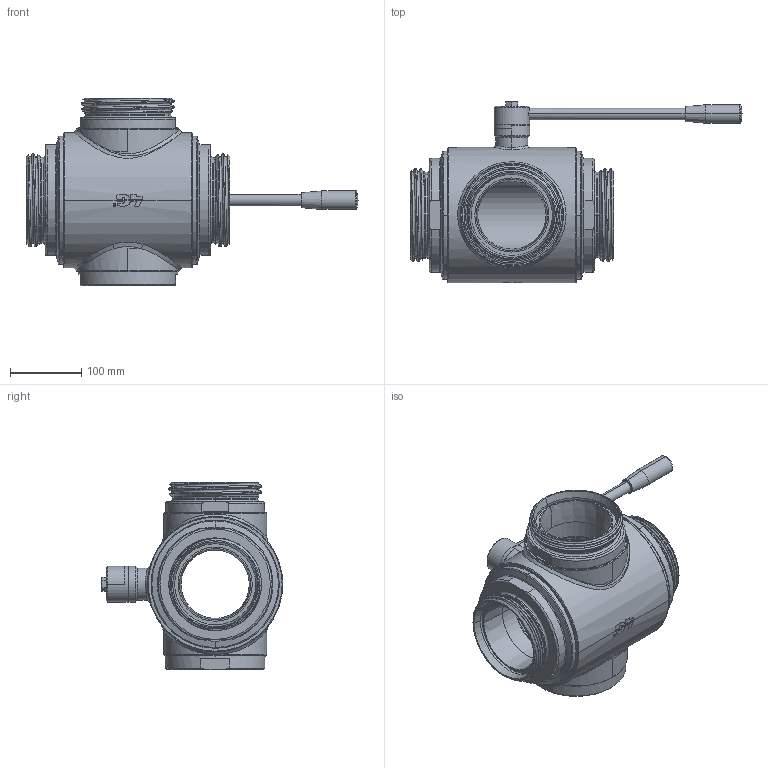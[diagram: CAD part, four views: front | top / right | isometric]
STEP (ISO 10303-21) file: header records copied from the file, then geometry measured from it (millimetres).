
FILE_DESCRIPTION((''),'2;1');
FILE_NAME('30012565410_SW0002','2025-03-24T10:14:58',('alfio.taboni'),('CDM Tecnoconsulting'),'CREO PARAMETRIC BY PTC INC, 2024063','CREO PARAMETRIC BY PTC INC, 2024063','');
FILE_SCHEMA(('CONFIG_CONTROL_DESIGN','SHAPE_APPEARANCE_LAYERS_GROUPS'));
Products named in the file (1): 30012565410_SW0002
Bounding box: 466 x 255 x 263 mm (x, y, z)
Volume: 4683472.9 mm3; surface area: 606564.5 mm2
Topology: 1 solids, 1 shells, 941 faces, 2482 edges, 1574 vertices
Faces by surface type: plane 390, cylinder 199, cone 143, extrusion 93, bspline 58, torus 52, sphere 6
Entity records: 66256 total; most frequent: CARTESIAN_POINT 32733, ORIENTED_EDGE 4928, DIRECTION 4150, PRESENTATION_STYLE_ASSIGNMENT 3048, STYLED_ITEM 2558, CURVE_STYLE 2557, EDGE_CURVE 2464, VERTEX_POINT 1574
